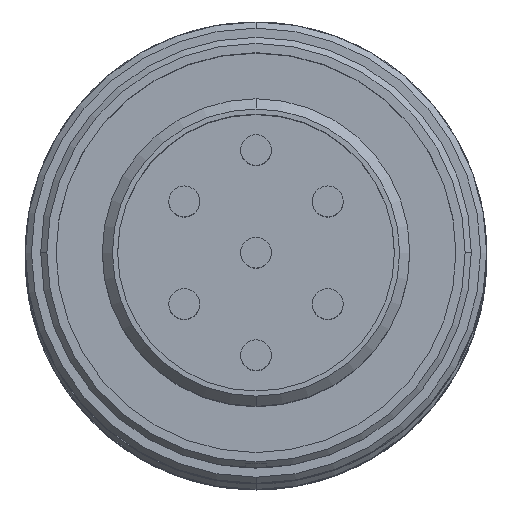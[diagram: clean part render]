
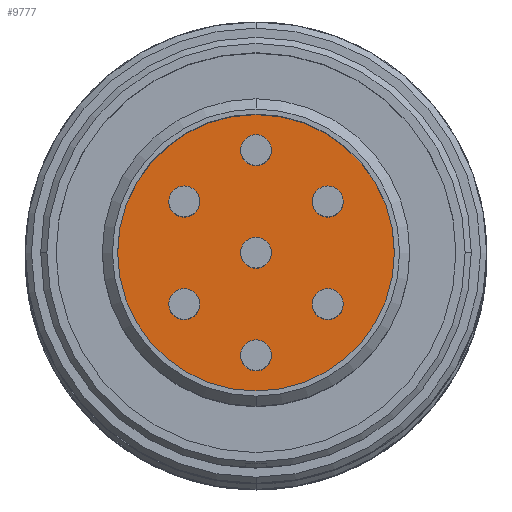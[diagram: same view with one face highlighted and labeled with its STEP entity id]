
A CAD part, top view. The second image highlights one B-rep face of the part: STEP entity #9777.
In plain terms, the highlighted planar face has unit normal (0, 0, 1) as drawn and (0, 0, -1) by its records, which use the part's own axes.
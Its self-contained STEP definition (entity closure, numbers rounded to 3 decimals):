
#4578=CARTESIAN_POINT('',(0.,0.,-35.));
#4579=DIRECTION('',(0.,0.,-1.));
#4580=DIRECTION('',(-1.,0.,0.));
#4581=AXIS2_PLACEMENT_3D('',#4578,#4579,#4580);
#4583=CARTESIAN_POINT('',(0.,0.,-35.));
#4584=DIRECTION('',(0.,0.,-1.));
#4585=DIRECTION('',(1.,0.,0.));
#4586=AXIS2_PLACEMENT_3D('',#4583,#4584,#4585);
#4588=CARTESIAN_POINT('',(-2.5,-3.5,-35.));
#4589=DIRECTION('',(0.,0.,-1.));
#4590=DIRECTION('',(1.,0.,0.));
#4591=AXIS2_PLACEMENT_3D('',#4588,#4589,#4590);
#4593=CARTESIAN_POINT('',(-2.5,-3.5,-35.));
#4594=DIRECTION('',(0.,0.,-1.));
#4595=DIRECTION('',(-1.,0.,0.));
#4596=AXIS2_PLACEMENT_3D('',#4593,#4594,#4595);
#4598=CARTESIAN_POINT('',(2.5,-3.5,-35.));
#4599=DIRECTION('',(0.,0.,-1.));
#4600=DIRECTION('',(1.,0.,0.));
#4601=AXIS2_PLACEMENT_3D('',#4598,#4599,#4600);
#4603=CARTESIAN_POINT('',(2.5,-3.5,-35.));
#4604=DIRECTION('',(0.,0.,-1.));
#4605=DIRECTION('',(-1.,0.,0.));
#4606=AXIS2_PLACEMENT_3D('',#4603,#4604,#4605);
#4608=CARTESIAN_POINT('',(0.,0.,-35.));
#4609=DIRECTION('',(0.,0.,-1.));
#4610=DIRECTION('',(1.,0.,0.));
#4611=AXIS2_PLACEMENT_3D('',#4608,#4609,#4610);
#4613=CARTESIAN_POINT('',(0.,0.,-35.));
#4614=DIRECTION('',(0.,0.,-1.));
#4615=DIRECTION('',(-1.,0.,0.));
#4616=AXIS2_PLACEMENT_3D('',#4613,#4614,#4615);
#4618=CARTESIAN_POINT('',(-5.,0.,-35.));
#4619=DIRECTION('',(0.,0.,-1.));
#4620=DIRECTION('',(1.,0.,0.));
#4621=AXIS2_PLACEMENT_3D('',#4618,#4619,#4620);
#4623=CARTESIAN_POINT('',(-5.,0.,-35.));
#4624=DIRECTION('',(0.,0.,-1.));
#4625=DIRECTION('',(-1.,0.,0.));
#4626=AXIS2_PLACEMENT_3D('',#4623,#4624,#4625);
#4628=CARTESIAN_POINT('',(5.,0.,-35.));
#4629=DIRECTION('',(0.,0.,-1.));
#4630=DIRECTION('',(1.,0.,0.));
#4631=AXIS2_PLACEMENT_3D('',#4628,#4629,#4630);
#4633=CARTESIAN_POINT('',(5.,0.,-35.));
#4634=DIRECTION('',(0.,0.,-1.));
#4635=DIRECTION('',(-1.,0.,0.));
#4636=AXIS2_PLACEMENT_3D('',#4633,#4634,#4635);
#4638=CARTESIAN_POINT('',(-2.5,3.5,-35.));
#4639=DIRECTION('',(0.,0.,-1.));
#4640=DIRECTION('',(1.,0.,0.));
#4641=AXIS2_PLACEMENT_3D('',#4638,#4639,#4640);
#4643=CARTESIAN_POINT('',(-2.5,3.5,-35.));
#4644=DIRECTION('',(0.,0.,-1.));
#4645=DIRECTION('',(-1.,0.,0.));
#4646=AXIS2_PLACEMENT_3D('',#4643,#4644,#4645);
#4648=CARTESIAN_POINT('',(2.5,3.5,-35.));
#4649=DIRECTION('',(0.,0.,-1.));
#4650=DIRECTION('',(1.,0.,0.));
#4651=AXIS2_PLACEMENT_3D('',#4648,#4649,#4650);
#4653=CARTESIAN_POINT('',(2.5,3.5,-35.));
#4654=DIRECTION('',(0.,0.,-1.));
#4655=DIRECTION('',(-1.,0.,0.));
#4656=AXIS2_PLACEMENT_3D('',#4653,#4654,#4655);
#6473=CARTESIAN_POINT('',(-6.75,0.,-35.));
#6474=CARTESIAN_POINT('',(6.75,0.,-35.));
#6475=VERTEX_POINT('',#6473);
#6476=VERTEX_POINT('',#6474);
#6477=CARTESIAN_POINT('',(-1.75,-3.5,-35.));
#6478=CARTESIAN_POINT('',(-3.25,-3.5,-35.));
#6479=VERTEX_POINT('',#6477);
#6480=VERTEX_POINT('',#6478);
#6481=CARTESIAN_POINT('',(3.25,-3.5,-35.));
#6482=CARTESIAN_POINT('',(1.75,-3.5,-35.));
#6483=VERTEX_POINT('',#6481);
#6484=VERTEX_POINT('',#6482);
#6485=CARTESIAN_POINT('',(0.75,0.,-35.));
#6486=CARTESIAN_POINT('',(-0.75,0.,-35.));
#6487=VERTEX_POINT('',#6485);
#6488=VERTEX_POINT('',#6486);
#6489=CARTESIAN_POINT('',(-4.25,0.,-35.));
#6490=CARTESIAN_POINT('',(-5.75,0.,-35.));
#6491=VERTEX_POINT('',#6489);
#6492=VERTEX_POINT('',#6490);
#6493=CARTESIAN_POINT('',(5.75,0.,-35.));
#6494=CARTESIAN_POINT('',(4.25,0.,-35.));
#6495=VERTEX_POINT('',#6493);
#6496=VERTEX_POINT('',#6494);
#6497=CARTESIAN_POINT('',(-1.75,3.5,-35.));
#6498=CARTESIAN_POINT('',(-3.25,3.5,-35.));
#6499=VERTEX_POINT('',#6497);
#6500=VERTEX_POINT('',#6498);
#6501=CARTESIAN_POINT('',(3.25,3.5,-35.));
#6502=CARTESIAN_POINT('',(1.75,3.5,-35.));
#6503=VERTEX_POINT('',#6501);
#6504=VERTEX_POINT('',#6502);
#9724=CARTESIAN_POINT('',(0.,0.,-35.));
#9725=DIRECTION('',(0.,0.,-1.));
#9726=DIRECTION('',(1.,0.,0.));
#9727=AXIS2_PLACEMENT_3D('',#9724,#9725,#9726);
#9728=PLANE('',#9727);
#9730=ORIENTED_EDGE('',*,*,#9729,.F.);
#9732=ORIENTED_EDGE('',*,*,#9731,.F.);
#9733=EDGE_LOOP('',(#9730,#9732));
#9734=FACE_OUTER_BOUND('',#9733,.F.);
#9736=ORIENTED_EDGE('',*,*,#9735,.T.);
#9738=ORIENTED_EDGE('',*,*,#9737,.T.);
#9739=EDGE_LOOP('',(#9736,#9738));
#9740=FACE_BOUND('',#9739,.F.);
#9742=ORIENTED_EDGE('',*,*,#9741,.T.);
#9744=ORIENTED_EDGE('',*,*,#9743,.T.);
#9745=EDGE_LOOP('',(#9742,#9744));
#9746=FACE_BOUND('',#9745,.F.);
#9748=ORIENTED_EDGE('',*,*,#9747,.T.);
#9750=ORIENTED_EDGE('',*,*,#9749,.T.);
#9751=EDGE_LOOP('',(#9748,#9750));
#9752=FACE_BOUND('',#9751,.F.);
#9754=ORIENTED_EDGE('',*,*,#9753,.T.);
#9756=ORIENTED_EDGE('',*,*,#9755,.T.);
#9757=EDGE_LOOP('',(#9754,#9756));
#9758=FACE_BOUND('',#9757,.F.);
#9760=ORIENTED_EDGE('',*,*,#9759,.T.);
#9762=ORIENTED_EDGE('',*,*,#9761,.T.);
#9763=EDGE_LOOP('',(#9760,#9762));
#9764=FACE_BOUND('',#9763,.F.);
#9766=ORIENTED_EDGE('',*,*,#9765,.T.);
#9768=ORIENTED_EDGE('',*,*,#9767,.T.);
#9769=EDGE_LOOP('',(#9766,#9768));
#9770=FACE_BOUND('',#9769,.F.);
#9772=ORIENTED_EDGE('',*,*,#9771,.T.);
#9774=ORIENTED_EDGE('',*,*,#9773,.T.);
#9775=EDGE_LOOP('',(#9772,#9774));
#9776=FACE_BOUND('',#9775,.F.);
#4582=CIRCLE('',#4581,6.75);
#4587=CIRCLE('',#4586,6.75);
#4592=CIRCLE('',#4591,0.75);
#4597=CIRCLE('',#4596,0.75);
#4602=CIRCLE('',#4601,0.75);
#4607=CIRCLE('',#4606,0.75);
#4612=CIRCLE('',#4611,0.75);
#4617=CIRCLE('',#4616,0.75);
#4622=CIRCLE('',#4621,0.75);
#4627=CIRCLE('',#4626,0.75);
#4632=CIRCLE('',#4631,0.75);
#4637=CIRCLE('',#4636,0.75);
#4642=CIRCLE('',#4641,0.75);
#4647=CIRCLE('',#4646,0.75);
#4652=CIRCLE('',#4651,0.75);
#4657=CIRCLE('',#4656,0.75);
#9729=EDGE_CURVE('',#6475,#6476,#4582,.T.);
#9731=EDGE_CURVE('',#6476,#6475,#4587,.T.);
#9735=EDGE_CURVE('',#6479,#6480,#4592,.T.);
#9737=EDGE_CURVE('',#6480,#6479,#4597,.T.);
#9741=EDGE_CURVE('',#6483,#6484,#4602,.T.);
#9743=EDGE_CURVE('',#6484,#6483,#4607,.T.);
#9747=EDGE_CURVE('',#6487,#6488,#4612,.T.);
#9749=EDGE_CURVE('',#6488,#6487,#4617,.T.);
#9753=EDGE_CURVE('',#6491,#6492,#4622,.T.);
#9755=EDGE_CURVE('',#6492,#6491,#4627,.T.);
#9759=EDGE_CURVE('',#6495,#6496,#4632,.T.);
#9761=EDGE_CURVE('',#6496,#6495,#4637,.T.);
#9765=EDGE_CURVE('',#6499,#6500,#4642,.T.);
#9767=EDGE_CURVE('',#6500,#6499,#4647,.T.);
#9771=EDGE_CURVE('',#6503,#6504,#4652,.T.);
#9773=EDGE_CURVE('',#6504,#6503,#4657,.T.);
#9777=ADVANCED_FACE('',(#9734,#9740,#9746,#9752,#9758,#9764,#9770,#9776),#9728,
.T.);
